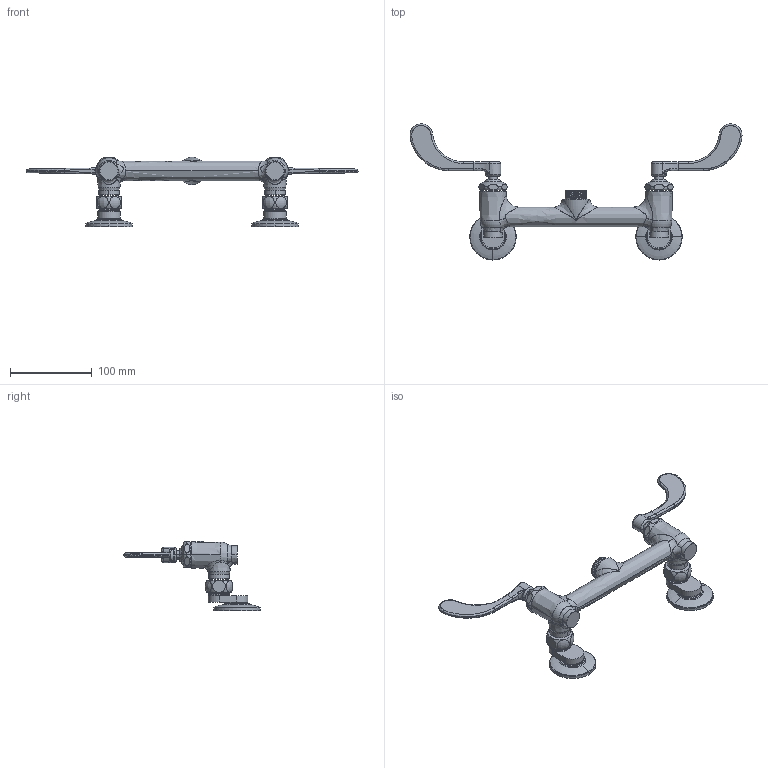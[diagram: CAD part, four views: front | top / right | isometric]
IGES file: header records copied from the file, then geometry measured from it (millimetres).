
Start section:  PTC IGES file: 640-les317yab_sw0001.igs
Global section: file name: 640-les317yab_sw0001.igs; native system: Creo Parametric by Parametric Technology Corporation; preprocessor: 2013050; author: jrodriguez; organization: Unknown; date: 20131023.123128; units: inch
Bounding box: 406.4 x 166.49 x 84.99 mm (x, y, z)
Surface area: 78803.1 mm2 (no closed solid volume)
Topology: 0 solids, 0 shells, 352 faces, 2897 edges, 3855 vertices
Faces by surface type: revolution 234, bspline 118
